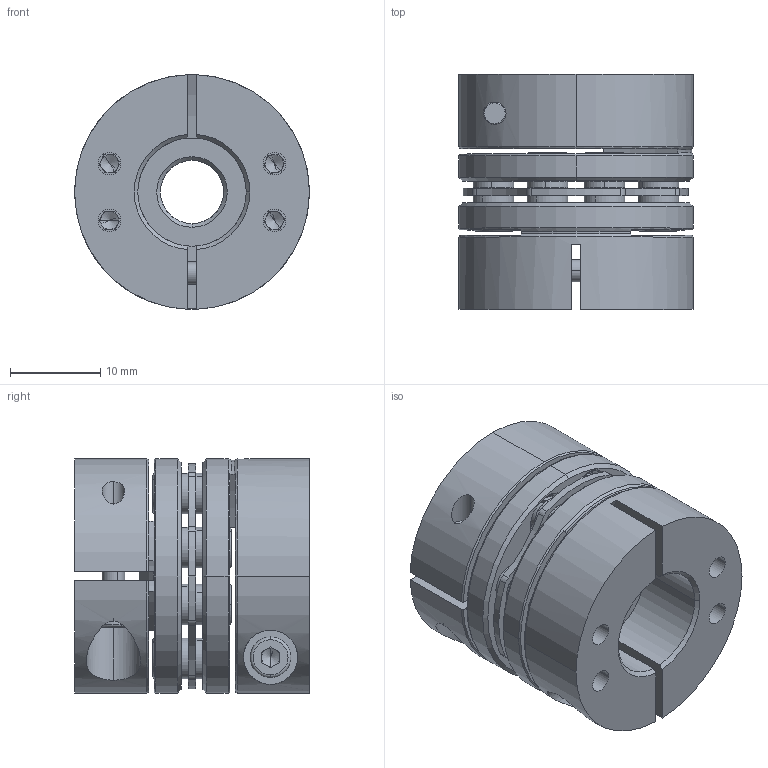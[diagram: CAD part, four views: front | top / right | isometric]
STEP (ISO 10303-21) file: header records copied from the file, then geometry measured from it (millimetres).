
FILE_DESCRIPTION (( 'STEP AP203' ), '1' );
FILE_NAME ('LDG-D26-7-12.STEP', '2021-10-28T03:29:27', ( '' ), ( '' ), 'SwSTEP 2.0', 'SolidWorks 2018', '' );
FILE_SCHEMA (( 'CONFIG_CONTROL_DESIGN' ));
Length unit declared in the file: millimetre
Products named in the file (2): 錨璃2^LDG-D26蚾饜芞1; LDG-D26-7-12
Assembly tree (1 placements, depth 2):
  LDG-D26-7-12
    錨璃2^LDG-D26蚾饜芞1
Bounding box: 26 x 26 x 26 mm (x, y, z)
Volume: 9579.5 mm3; surface area: 8909.5 mm2
Topology: 1 solids, 21 shells, 765 faces, 1872 edges, 1159 vertices
Faces by surface type: cylinder 301, plane 244, cone 200, torus 20
Entity records: 23057 total; most frequent: DIRECTION 4281, CARTESIAN_POINT 4164, ORIENTED_EDGE 3688, EDGE_CURVE 1844, AXIS2_PLACEMENT_3D 1740, VERTEX_POINT 1159, CIRCLE 971, EDGE_LOOP 909
